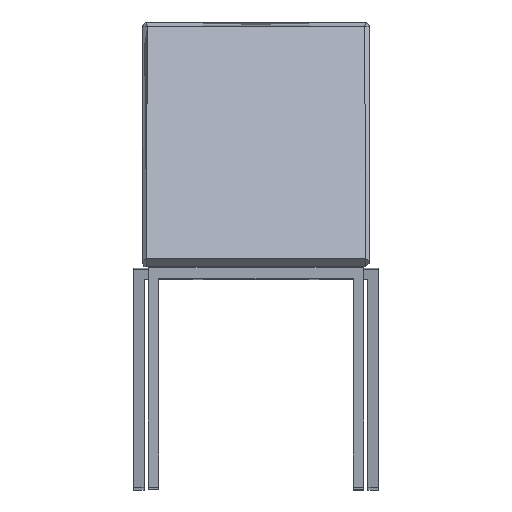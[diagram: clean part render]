
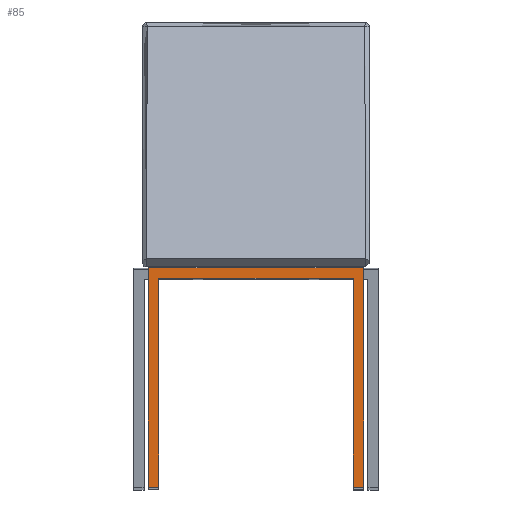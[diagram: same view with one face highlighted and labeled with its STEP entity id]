
A CAD part, front view. The second image highlights one B-rep face of the part: STEP entity #85.
In plain terms, the highlighted planar face has unit normal (0, -1, 0).
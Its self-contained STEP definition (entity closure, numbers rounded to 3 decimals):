
#85=ADVANCED_FACE('',(#155),#1086,.T.);
#155=FACE_OUTER_BOUND('',#225,.T.);
#225=EDGE_LOOP('',(#332,#333,#334,#335,#336,#337,#338,#339,#340,#341,#342,
#343));
#332=ORIENTED_EDGE('',*,*,#673,.F.);
#333=ORIENTED_EDGE('',*,*,#674,.F.);
#334=ORIENTED_EDGE('',*,*,#675,.T.);
#335=ORIENTED_EDGE('',*,*,#652,.F.);
#336=ORIENTED_EDGE('',*,*,#676,.T.);
#337=ORIENTED_EDGE('',*,*,#667,.F.);
#338=ORIENTED_EDGE('',*,*,#668,.F.);
#339=ORIENTED_EDGE('',*,*,#669,.T.);
#340=ORIENTED_EDGE('',*,*,#670,.F.);
#341=ORIENTED_EDGE('',*,*,#671,.F.);
#342=ORIENTED_EDGE('',*,*,#672,.T.);
#343=ORIENTED_EDGE('',*,*,#648,.F.);
#648=EDGE_CURVE('',#966,#968,#828,.T.);
#652=EDGE_CURVE('',#972,#970,#832,.T.);
#667=EDGE_CURVE('',#987,#986,#847,.T.);
#668=EDGE_CURVE('',#988,#987,#848,.T.);
#669=EDGE_CURVE('',#988,#989,#849,.T.);
#670=EDGE_CURVE('',#990,#989,#850,.T.);
#671=EDGE_CURVE('',#991,#990,#851,.T.);
#672=EDGE_CURVE('',#991,#968,#852,.T.);
#673=EDGE_CURVE('',#992,#966,#853,.T.);
#674=EDGE_CURVE('',#993,#992,#854,.T.);
#675=EDGE_CURVE('',#993,#970,#855,.T.);
#676=EDGE_CURVE('',#972,#986,#856,.T.);
#828=B_SPLINE_CURVE_WITH_KNOTS('',1,(#1464,#1465),.UNSPECIFIED.,.F.,.F.,
(2,2),(-27.856,8.358),.UNSPECIFIED.);
#832=B_SPLINE_CURVE_WITH_KNOTS('',1,(#1472,#1473),.UNSPECIFIED.,.F.,.F.,
(2,2),(-33.928,2.286),.UNSPECIFIED.);
#847=B_SPLINE_CURVE_WITH_KNOTS('',1,(#1502,#1503),.UNSPECIFIED.,.F.,.F.,
(2,2),(0.,1.),.UNSPECIFIED.);
#848=B_SPLINE_CURVE_WITH_KNOTS('',1,(#1504,#1505),.UNSPECIFIED.,.F.,.F.,
(2,2),(0.,1.),.UNSPECIFIED.);
#849=B_SPLINE_CURVE_WITH_KNOTS('',1,(#1506,#1507),.UNSPECIFIED.,.F.,.F.,
(2,2),(0.,1.),.UNSPECIFIED.);
#850=B_SPLINE_CURVE_WITH_KNOTS('',1,(#1508,#1509),.UNSPECIFIED.,.F.,.F.,
(2,2),(0.,1.),.UNSPECIFIED.);
#851=B_SPLINE_CURVE_WITH_KNOTS('',1,(#1510,#1511),.UNSPECIFIED.,.F.,.F.,
(2,2),(0.,1.),.UNSPECIFIED.);
#852=B_SPLINE_CURVE_WITH_KNOTS('',1,(#1512,#1513),.UNSPECIFIED.,.F.,.F.,
(2,2),(0.,0.971),.UNSPECIFIED.);
#853=B_SPLINE_CURVE_WITH_KNOTS('',1,(#1514,#1515),.UNSPECIFIED.,.F.,.F.,
(2,2),(0.,20.),.UNSPECIFIED.);
#854=B_SPLINE_CURVE_WITH_KNOTS('',1,(#1516,#1517),.UNSPECIFIED.,.F.,.F.,
(2,2),(-271.565,0.),.UNSPECIFIED.);
#855=B_SPLINE_CURVE_WITH_KNOTS('',1,(#1518,#1519),.UNSPECIFIED.,.F.,.F.,
(2,2),(0.,20.),.UNSPECIFIED.);
#856=B_SPLINE_CURVE_WITH_KNOTS('',1,(#1520,#1521),.UNSPECIFIED.,.F.,.F.,
(2,2),(0.029,1.),.UNSPECIFIED.);
#966=VERTEX_POINT('',#1364);
#968=VERTEX_POINT('',#1366);
#970=VERTEX_POINT('',#1368);
#972=VERTEX_POINT('',#1370);
#986=VERTEX_POINT('',#1384);
#987=VERTEX_POINT('',#1385);
#988=VERTEX_POINT('',#1386);
#989=VERTEX_POINT('',#1387);
#990=VERTEX_POINT('',#1388);
#991=VERTEX_POINT('',#1389);
#992=VERTEX_POINT('',#1390);
#993=VERTEX_POINT('',#1391);
#1086=PLANE('',#1218);
#1218=AXIS2_PLACEMENT_3D('',#1335,#1267,$);
#1267=DIRECTION('',(0.,-1.,0.));
#1335=CARTESIAN_POINT('',(205.,-219.808,5.408));
#1364=CARTESIAN_POINT('',(120.,-219.808,422.261));
#1366=CARTESIAN_POINT('',(205.,-219.808,422.261));
#1368=CARTESIAN_POINT('',(-120.,-219.808,422.261));
#1370=CARTESIAN_POINT('',(-205.,-219.808,422.261));
#1384=CARTESIAN_POINT('',(-205.,-219.808,5.408));
#1385=CARTESIAN_POINT('',(-185.,-219.808,5.408));
#1386=CARTESIAN_POINT('',(-185.,-219.808,402.261));
#1387=CARTESIAN_POINT('',(185.,-219.808,402.261));
#1388=CARTESIAN_POINT('',(185.,-219.808,5.408));
#1389=CARTESIAN_POINT('',(205.,-219.808,5.408));
#1390=CARTESIAN_POINT('',(100.,-219.808,422.261));
#1391=CARTESIAN_POINT('',(-100.,-219.808,422.261));
#1464=CARTESIAN_POINT('',(120.,-219.808,422.261));
#1465=CARTESIAN_POINT('',(205.,-219.808,422.261));
#1472=CARTESIAN_POINT('',(-205.,-219.808,422.261));
#1473=CARTESIAN_POINT('',(-120.,-219.808,422.261));
#1502=CARTESIAN_POINT('',(-185.,-219.808,5.408));
#1503=CARTESIAN_POINT('',(-205.,-219.808,5.408));
#1504=CARTESIAN_POINT('',(-185.,-219.808,402.261));
#1505=CARTESIAN_POINT('',(-185.,-219.808,5.408));
#1506=CARTESIAN_POINT('',(-185.,-219.808,402.261));
#1507=CARTESIAN_POINT('',(185.,-219.808,402.261));
#1508=CARTESIAN_POINT('',(185.,-219.808,5.408));
#1509=CARTESIAN_POINT('',(185.,-219.808,402.261));
#1510=CARTESIAN_POINT('',(205.,-219.808,5.408));
#1511=CARTESIAN_POINT('',(185.,-219.808,5.408));
#1512=CARTESIAN_POINT('',(205.,-219.808,5.408));
#1513=CARTESIAN_POINT('',(205.,-219.808,422.261));
#1514=CARTESIAN_POINT('',(100.,-219.808,422.261));
#1515=CARTESIAN_POINT('',(120.,-219.808,422.261));
#1516=CARTESIAN_POINT('',(-100.,-219.808,422.261));
#1517=CARTESIAN_POINT('',(100.,-219.808,422.261));
#1518=CARTESIAN_POINT('',(-100.,-219.808,422.261));
#1519=CARTESIAN_POINT('',(-120.,-219.808,422.261));
#1520=CARTESIAN_POINT('',(-205.,-219.808,422.261));
#1521=CARTESIAN_POINT('',(-205.,-219.808,5.408));
